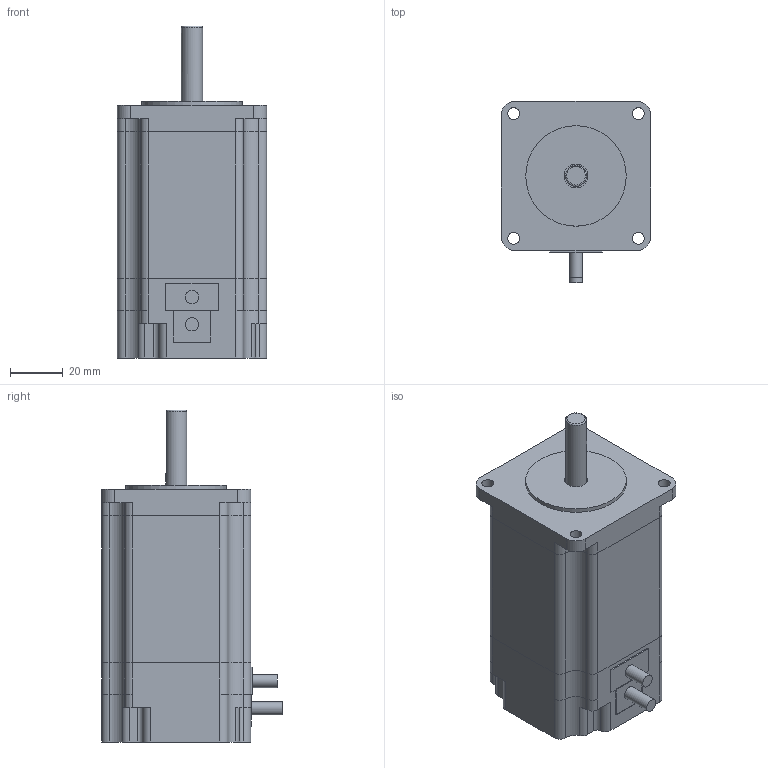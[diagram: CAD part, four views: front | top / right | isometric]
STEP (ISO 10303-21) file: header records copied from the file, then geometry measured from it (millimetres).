
FILE_DESCRIPTION(/* description */ (''),/* implementation_level */ '2;1');
FILE_NAME(/* name */ 'STP-59D5-Y17-01771.stp',/* time_stamp */ '2018-09-03T10:48:39+08:00',/* author */ (''),/* organization */ (''),/* preprocessor_version */ 'ST-DEVELOPER v11',/* originating_system */ 'SIEMENS UGS NX 6.0',/* authorisation */ '');
FILE_SCHEMA (('CONFIG_CONTROL_DESIGN'));
Length unit declared in the file: millimetre
Products named in the file (1): STP-59D5-Y17-01771
Bounding box: 56.4 x 68.4 x 125.5 mm (x, y, z)
Volume: 279503.8 mm3; surface area: 38986.1 mm2
Topology: 3 solids, 3 shells, 124 faces, 337 edges, 225 vertices
Faces by surface type: cylinder 73, plane 50, torus 1
Full cylindrical faces by diameter (mm): 4.5 x4, 5 x2, 8 x1, 9 x1, 38 x1
Entity records: 4046 total; most frequent: DIRECTION 729, CARTESIAN_POINT 711, ORIENTED_EDGE 650, EDGE_CURVE 325, AXIS2_PLACEMENT_3D 281, VERTEX_POINT 222, LINE 167, VECTOR 167
